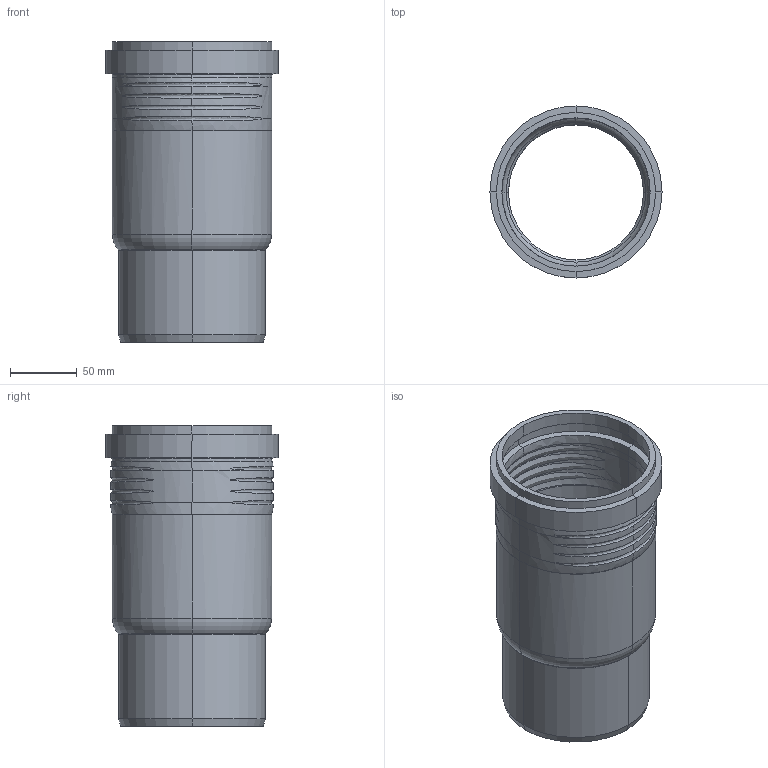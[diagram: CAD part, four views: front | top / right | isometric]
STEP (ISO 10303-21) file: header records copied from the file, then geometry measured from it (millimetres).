
FILE_DESCRIPTION(/* description */ (''),/* implementation_level */ '2;1');
FILE_NAME(/* name */ 'H:\Geberit-Teile\Export\Langmuffe PP\stp\393518.stp',/* time_stamp */ '2017-10-18T09:55:56+02:00',/* author */ ('seihe2'),/* organization */ (''),/* preprocessor_version */ 'ST-DEVELOPER v15.2',/* originating_system */ 'Autodesk Inventor 2014',/* authorisation */ '');
FILE_SCHEMA (('AUTOMOTIVE_DESIGN { 1 0 10303 214 3 1 1 }'));
Length unit declared in the file: millimetre
Products named in the file (1): 393518
Bounding box: 128.9 x 128.9 x 225 mm (x, y, z)
Volume: 350421.8 mm3; surface area: 170815.2 mm2
Topology: 1 solids, 1 shells, 134 faces, 314 edges, 170 vertices
Faces by surface type: bspline 60, cone 28, cylinder 28, torus 14, plane 4
Entity records: 8721 total; most frequent: CARTESIAN_POINT 5906, ORIENTED_EDGE 604, DIRECTION 482, EDGE_CURVE 302, AXIS2_PLACEMENT_3D 193, VERTEX_POINT 170, EDGE_LOOP 136, STYLED_ITEM 135
